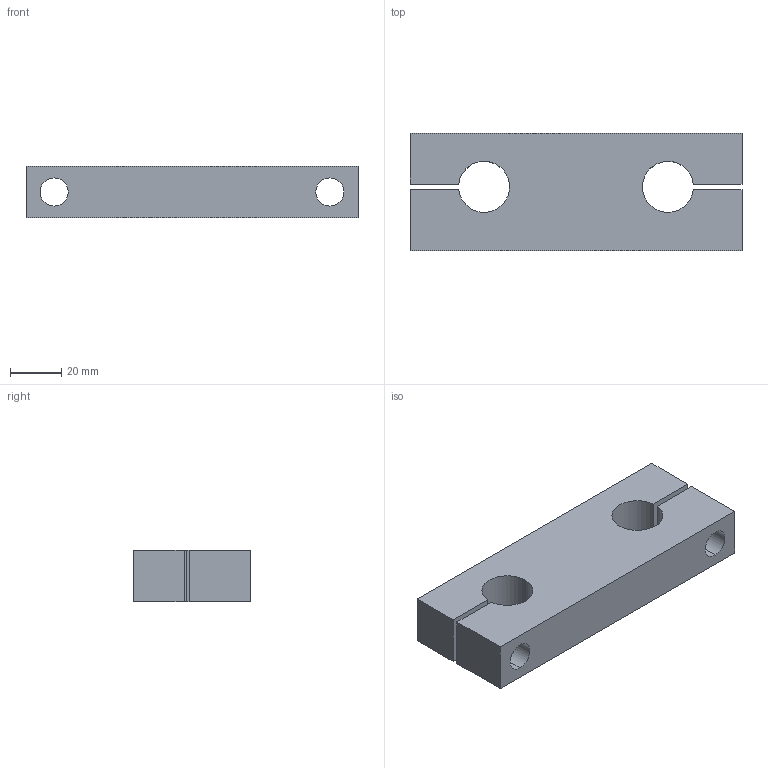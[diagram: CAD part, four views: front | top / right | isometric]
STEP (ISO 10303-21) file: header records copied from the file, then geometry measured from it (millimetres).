
FILE_DESCRIPTION (( 'STEP AP214' ), '1' );
FILE_NAME ('KTA-20.step', '2020-03-04T13:37:52', ( '' ), ( '' ), 'SwSTEP 2.0', 'SolidWorks 2019', '' );
FILE_SCHEMA (( 'AUTOMOTIVE_DESIGN' ));
Length unit declared in the file: millimetre
Products named in the file (1): KTA-20
Bounding box: 130 x 46 x 20 mm (x, y, z)
Volume: 92741.8 mm3; surface area: 24327.8 mm2
Topology: 1 solids, 1 shells, 35 faces, 89 edges, 57 vertices
Faces by surface type: cylinder 17, plane 14, cone 4
Entity records: 1103 total; most frequent: DIRECTION 195, CARTESIAN_POINT 180, ORIENTED_EDGE 174, EDGE_CURVE 87, AXIS2_PLACEMENT_3D 72, VERTEX_POINT 57, VECTOR 51, LINE 51
